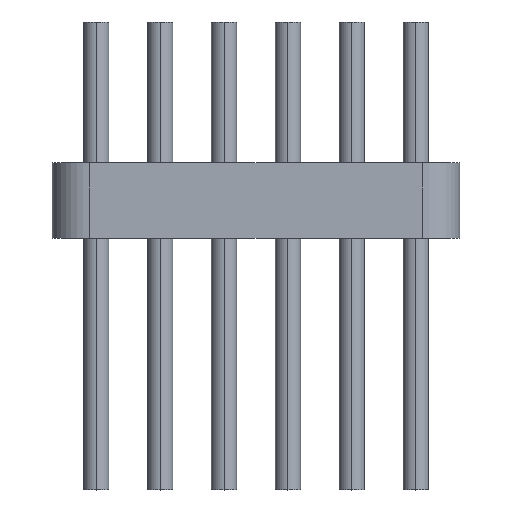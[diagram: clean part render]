
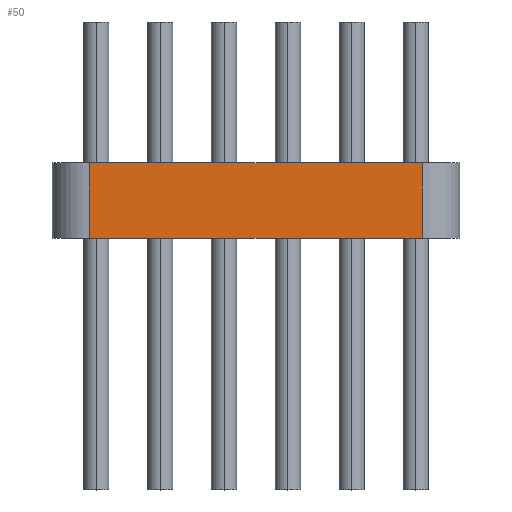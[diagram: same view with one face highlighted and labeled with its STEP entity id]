
A CAD part, top view. The second image highlights one B-rep face of the part: STEP entity #50.
In plain terms, the highlighted planar face has unit normal (0, 0, 1).
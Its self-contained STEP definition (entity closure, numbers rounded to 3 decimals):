
#13 = CARTESIAN_POINT ( 'NONE',  ( 0., 1.5, 0.75 ) ) ;
#50 = ADVANCED_FACE ( 'NONE', ( #1680 ), #336, .F. ) ;
#103 = DIRECTION ( 'NONE',  ( 0., -1., 0. ) ) ;
#135 = DIRECTION ( 'NONE',  ( 1., 0., 0. ) ) ;
#147 = CARTESIAN_POINT ( 'NONE',  ( 0., 0., 0.75 ) ) ;
#157 = ORIENTED_EDGE ( 'NONE', *, *, #1040, .F. ) ;
#272 = DIRECTION ( 'NONE',  ( 0., -1., 0. ) ) ;
#326 = DIRECTION ( 'NONE',  ( -1., 0., 0. ) ) ;
#327 = LINE ( 'NONE', #1939, #1137 ) ;
#328 = VECTOR ( 'NONE', #103, 1000. ) ;
#336 = PLANE ( 'NONE',  #2069 ) ;
#486 = LINE ( 'NONE', #820, #2158 ) ;
#493 = CARTESIAN_POINT ( 'NONE',  ( 6.6, 1.5, 0.75 ) ) ;
#697 = DIRECTION ( 'NONE',  ( 0., 0., -1. ) ) ;
#820 = CARTESIAN_POINT ( 'NONE',  ( 0., 1.5, 0.75 ) ) ;
#849 = VERTEX_POINT ( 'NONE', #1733 ) ;
#992 = ORIENTED_EDGE ( 'NONE', *, *, #1701, .T. ) ;
#999 = VERTEX_POINT ( 'NONE', #147 ) ;
#1040 = EDGE_CURVE ( 'NONE', #1494, #1727, #486, .T. ) ;
#1128 = CARTESIAN_POINT ( 'NONE',  ( 0., 0., 0.75 ) ) ;
#1137 = VECTOR ( 'NONE', #272, 1000. ) ;
#1148 = EDGE_LOOP ( 'NONE', ( #992, #2005, #157, #1603 ) ) ;
#1187 = EDGE_CURVE ( 'NONE', #1727, #849, #1430, .T. ) ;
#1233 = CARTESIAN_POINT ( 'NONE',  ( 0., 1.5, 0.75 ) ) ;
#1300 = LINE ( 'NONE', #1128, #2112 ) ;
#1430 = LINE ( 'NONE', #2100, #328 ) ;
#1494 = VERTEX_POINT ( 'NONE', #1233 ) ;
#1522 = EDGE_CURVE ( 'NONE', #1494, #999, #327, .T. ) ;
#1603 = ORIENTED_EDGE ( 'NONE', *, *, #1522, .T. ) ;
#1680 = FACE_OUTER_BOUND ( 'NONE', #1148, .T. ) ;
#1701 = EDGE_CURVE ( 'NONE', #999, #849, #1300, .T. ) ;
#1727 = VERTEX_POINT ( 'NONE', #493 ) ;
#1733 = CARTESIAN_POINT ( 'NONE',  ( 6.6, 0., 0.75 ) ) ;
#1790 = DIRECTION ( 'NONE',  ( 1., 0., 0. ) ) ;
#1939 = CARTESIAN_POINT ( 'NONE',  ( 0., 1.5, 0.75 ) ) ;
#2005 = ORIENTED_EDGE ( 'NONE', *, *, #1187, .F. ) ;
#2069 = AXIS2_PLACEMENT_3D ( 'NONE', #13, #697, #326 ) ;
#2100 = CARTESIAN_POINT ( 'NONE',  ( 6.6, 1.5, 0.75 ) ) ;
#2112 = VECTOR ( 'NONE', #1790, 1000. ) ;
#2158 = VECTOR ( 'NONE', #135, 1000. ) ;
